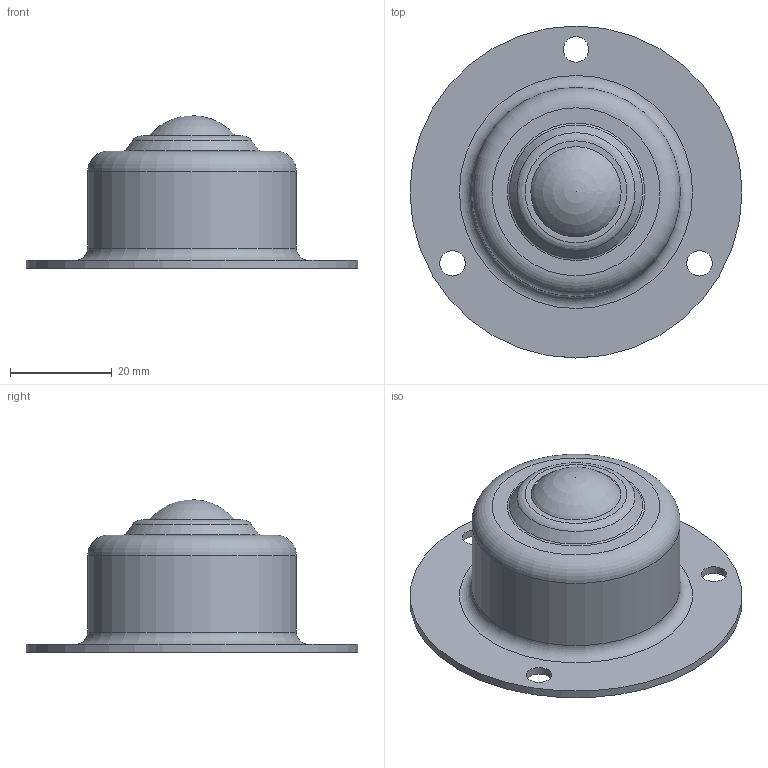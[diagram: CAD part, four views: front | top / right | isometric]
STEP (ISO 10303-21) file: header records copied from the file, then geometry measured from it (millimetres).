
FILE_DESCRIPTION(/* description */ (''),/* implementation_level */ '2;1');
FILE_NAME(/* name */ 'Z:\34-Tei\web 3Dデータ\13-IS型\IS-19.stp',/* time_stamp */ '2015-01-09T10:35:03+09:00',/* author */ ('yamaki'),/* organization */ (''),/* preprocessor_version */ 'ST-DEVELOPER v15.6',/* originating_system */ 'Autodesk Inventor 2015',/* authorisation */ '');
FILE_SCHEMA (('AUTOMOTIVE_DESIGN { 1 0 10303 214 3 1 1 }'));
Length unit declared in the file: millimetre
Products named in the file (1): IS-19
Bounding box: 65.2 x 65.2 x 30 mm (x, y, z)
Volume: 34634.3 mm3; surface area: 10258.6 mm2
Topology: 1 solids, 1 shells, 23 faces, 46 edges, 30 vertices
Faces by surface type: cylinder 7, plane 7, torus 5, cone 3, sphere 1
Full cylindrical faces by diameter (mm): 5 x3, 15 x1, 38 x1, 41 x1, 65.2 x1
Entity records: 549 total; most frequent: DIRECTION 98, CARTESIAN_POINT 74, EDGE_LOOP 50, ORIENTED_EDGE 50, AXIS2_PLACEMENT_3D 49, FACE_BOUND 27, CIRCLE 25, VERTEX_POINT 25
